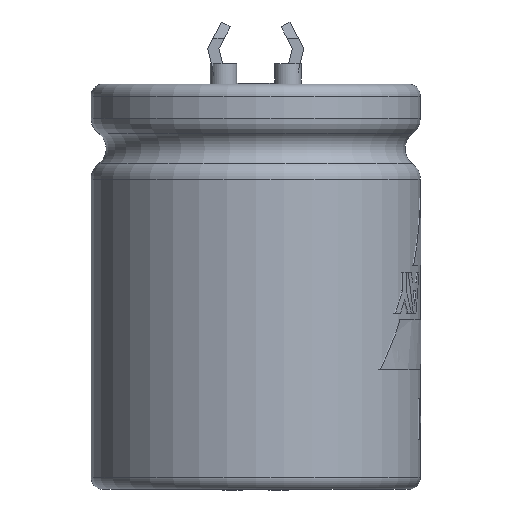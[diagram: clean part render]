
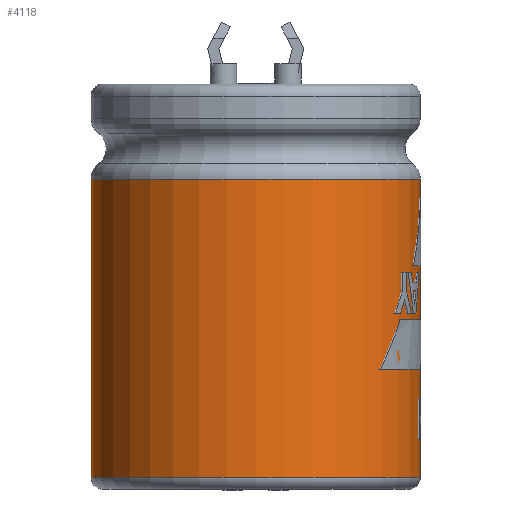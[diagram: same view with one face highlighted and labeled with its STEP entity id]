
A CAD part, left-side view. The second image highlights one B-rep face of the part: STEP entity #4118.
In plain terms, the highlighted cylindrical face has radius 13 mm (diameter 26 mm), a full revolution.
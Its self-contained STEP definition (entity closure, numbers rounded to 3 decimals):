
#4050 = TOROIDAL_SURFACE('',#4051,11.5,1.5);
#4051 = AXIS2_PLACEMENT_3D('',#4052,#4053,#4054);
#4052 = CARTESIAN_POINT('',(0.,0.,-6.55));
#4053 = DIRECTION('',(0.,0.,1.));
#4054 = DIRECTION('',(1.,0.,0.));
#4066 = EDGE_CURVE('',#4067,#4067,#4069,.T.);
#4067 = VERTEX_POINT('',#4068);
#4068 = CARTESIAN_POINT('',(13.,0.,
    -6.55));
#4069 = SURFACE_CURVE('',#4070,(#4075,#4082),.PCURVE_S1.);
#4070 = CIRCLE('',#4071,13.);
#4071 = AXIS2_PLACEMENT_3D('',#4072,#4073,#4074);
#4072 = CARTESIAN_POINT('',(0.,0.,-6.55));
#4073 = DIRECTION('',(0.,0.,1.));
#4074 = DIRECTION('',(1.,0.,0.));
#4075 = PCURVE('',#4050,#4076);
#4076 = DEFINITIONAL_REPRESENTATION('',(#4077),#4081);
#4077 = LINE('',#4078,#4079);
#4078 = CARTESIAN_POINT('',(0.,6.283));
#4079 = VECTOR('',#4080,1.);
#4080 = DIRECTION('',(1.,0.));
#4081 = ( GEOMETRIC_REPRESENTATION_CONTEXT(2) 
PARAMETRIC_REPRESENTATION_CONTEXT() REPRESENTATION_CONTEXT('2D SPACE',''
  ) );
#4082 = PCURVE('',#4083,#4088);
#4083 = CYLINDRICAL_SURFACE('',#4084,13.);
#4084 = AXIS2_PLACEMENT_3D('',#4085,#4086,#4087);
#4085 = CARTESIAN_POINT('',(0.,0.,-30.1));
#4086 = DIRECTION('',(0.,0.,1.));
#4087 = DIRECTION('',(1.,0.,0.));
#4088 = DEFINITIONAL_REPRESENTATION('',(#4089),#4093);
#4089 = LINE('',#4090,#4091);
#4090 = CARTESIAN_POINT('',(0.,23.55));
#4091 = VECTOR('',#4092,1.);
#4092 = DIRECTION('',(1.,0.));
#4093 = ( GEOMETRIC_REPRESENTATION_CONTEXT(2) 
PARAMETRIC_REPRESENTATION_CONTEXT() REPRESENTATION_CONTEXT('2D SPACE',''
  ) );
#4118 = ADVANCED_FACE('',(#4119),#4083,.T.);
#4119 = FACE_BOUND('',#4120,.T.);
#4120 = EDGE_LOOP('',(#4121,#4150,#4171,#4172));
#4121 = ORIENTED_EDGE('',*,*,#4122,.T.);
#4122 = EDGE_CURVE('',#4123,#4123,#4125,.T.);
#4123 = VERTEX_POINT('',#4124);
#4124 = CARTESIAN_POINT('',(13.,0.,-30.1));
#4125 = SURFACE_CURVE('',#4126,(#4131,#4138),.PCURVE_S1.);
#4126 = CIRCLE('',#4127,13.);
#4127 = AXIS2_PLACEMENT_3D('',#4128,#4129,#4130);
#4128 = CARTESIAN_POINT('',(0.,0.,-30.1));
#4129 = DIRECTION('',(0.,0.,1.));
#4130 = DIRECTION('',(1.,0.,0.));
#4131 = PCURVE('',#4083,#4132);
#4132 = DEFINITIONAL_REPRESENTATION('',(#4133),#4137);
#4133 = LINE('',#4134,#4135);
#4134 = CARTESIAN_POINT('',(0.,0.));
#4135 = VECTOR('',#4136,1.);
#4136 = DIRECTION('',(1.,0.));
#4137 = ( GEOMETRIC_REPRESENTATION_CONTEXT(2) 
PARAMETRIC_REPRESENTATION_CONTEXT() REPRESENTATION_CONTEXT('2D SPACE',''
  ) );
#4138 = PCURVE('',#4139,#4144);
#4139 = TOROIDAL_SURFACE('',#4140,12.05,0.95);
#4140 = AXIS2_PLACEMENT_3D('',#4141,#4142,#4143);
#4141 = CARTESIAN_POINT('',(0.,0.,-30.1));
#4142 = DIRECTION('',(0.,0.,1.));
#4143 = DIRECTION('',(1.,0.,0.));
#4144 = DEFINITIONAL_REPRESENTATION('',(#4145),#4149);
#4145 = LINE('',#4146,#4147);
#4146 = CARTESIAN_POINT('',(0.,6.283));
#4147 = VECTOR('',#4148,1.);
#4148 = DIRECTION('',(1.,0.));
#4149 = ( GEOMETRIC_REPRESENTATION_CONTEXT(2) 
PARAMETRIC_REPRESENTATION_CONTEXT() REPRESENTATION_CONTEXT('2D SPACE',''
  ) );
#4150 = ORIENTED_EDGE('',*,*,#4151,.T.);
#4151 = EDGE_CURVE('',#4123,#4067,#4152,.T.);
#4152 = SEAM_CURVE('',#4153,(#4157,#4164),.PCURVE_S1.);
#4153 = LINE('',#4154,#4155);
#4154 = CARTESIAN_POINT('',(13.,0.,-30.1));
#4155 = VECTOR('',#4156,1.);
#4156 = DIRECTION('',(0.,0.,1.));
#4157 = PCURVE('',#4083,#4158);
#4158 = DEFINITIONAL_REPRESENTATION('',(#4159),#4163);
#4159 = LINE('',#4160,#4161);
#4160 = CARTESIAN_POINT('',(0.,0.));
#4161 = VECTOR('',#4162,1.);
#4162 = DIRECTION('',(0.,1.));
#4163 = ( GEOMETRIC_REPRESENTATION_CONTEXT(2) 
PARAMETRIC_REPRESENTATION_CONTEXT() REPRESENTATION_CONTEXT('2D SPACE',''
  ) );
#4164 = PCURVE('',#4083,#4165);
#4165 = DEFINITIONAL_REPRESENTATION('',(#4166),#4170);
#4166 = LINE('',#4167,#4168);
#4167 = CARTESIAN_POINT('',(6.283,0.));
#4168 = VECTOR('',#4169,1.);
#4169 = DIRECTION('',(0.,1.));
#4170 = ( GEOMETRIC_REPRESENTATION_CONTEXT(2) 
PARAMETRIC_REPRESENTATION_CONTEXT() REPRESENTATION_CONTEXT('2D SPACE',''
  ) );
#4171 = ORIENTED_EDGE('',*,*,#4066,.F.);
#4172 = ORIENTED_EDGE('',*,*,#4151,.F.);
